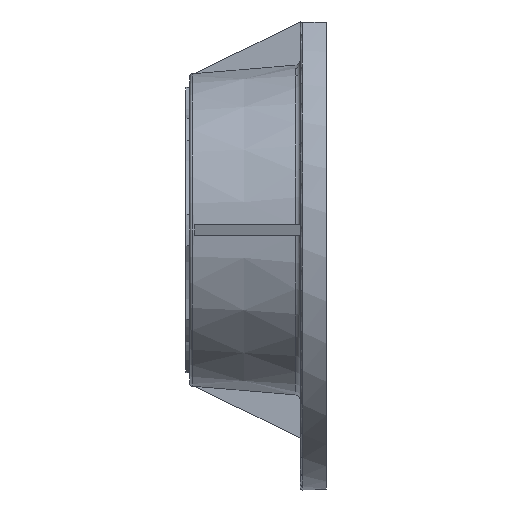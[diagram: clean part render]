
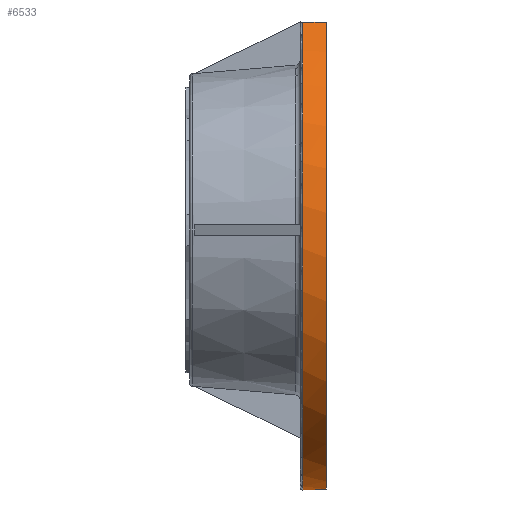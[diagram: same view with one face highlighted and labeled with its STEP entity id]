
A CAD part, front view. The second image highlights one B-rep face of the part: STEP entity #6533.
In plain terms, the highlighted cylindrical face has radius 100 mm (diameter 200 mm), a partial arc.
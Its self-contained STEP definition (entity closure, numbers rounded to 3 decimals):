
#1954 = EDGE_LOOP ( 'NONE', ( #6405, #8250, #18564, #21212, #10952 ) ) ;
#2478 = EDGE_CURVE ( 'NONE', #12086, #9725, #17512, .T. ) ;
#3520 = DIRECTION ( 'NONE',  ( 0., 0., -1. ) ) ;
#4543 = CYLINDRICAL_SURFACE ( 'NONE', #12352, 100. ) ;
#5209 = CARTESIAN_POINT ( 'NONE',  ( 54., 60., 80. ) ) ;
#6405 = ORIENTED_EDGE ( 'NONE', *, *, #15170, .T. ) ;
#6533 = ADVANCED_FACE ( 'NONE', ( #9765 ), #4543, .T. ) ;
#7222 = DIRECTION ( 'NONE',  ( 1., 0., 0. ) ) ;
#7757 = CIRCLE ( 'NONE', #13251, 100. ) ;
#7775 = CARTESIAN_POINT ( 'NONE',  ( 45., 60., 80. ) ) ;
#8250 = ORIENTED_EDGE ( 'NONE', *, *, #2478, .T. ) ;
#8629 = DIRECTION ( 'NONE',  ( 0., 0., 1. ) ) ;
#9702 = VECTOR ( 'NONE', #18089, 1000. ) ;
#9725 = VERTEX_POINT ( 'NONE', #13066 ) ;
#9765 = FACE_OUTER_BOUND ( 'NONE', #1954, .T. ) ;
#10588 = VERTEX_POINT ( 'NONE', #5209 ) ;
#10727 = LINE ( 'NONE', #14672, #9702 ) ;
#10764 = CARTESIAN_POINT ( 'NONE',  ( 54., -60., 80. ) ) ;
#10952 = ORIENTED_EDGE ( 'NONE', *, *, #10958, .T. ) ;
#10958 = EDGE_CURVE ( 'NONE', #10588, #11443, #18197, .T. ) ;
#11177 = AXIS2_PLACEMENT_3D ( 'NONE', #20868, #19360, #17942 ) ;
#11443 = VERTEX_POINT ( 'NONE', #10764 ) ;
#12086 = VERTEX_POINT ( 'NONE', #17738 ) ;
#12352 = AXIS2_PLACEMENT_3D ( 'NONE', #13616, #20042, #8629 ) ;
#13066 = CARTESIAN_POINT ( 'NONE',  ( 45., 0., -100. ) ) ;
#13251 = AXIS2_PLACEMENT_3D ( 'NONE', #18821, #7222, #13761 ) ;
#13307 = DIRECTION ( 'NONE',  ( -1., 0., 0. ) ) ;
#13418 = CARTESIAN_POINT ( 'NONE',  ( 45., 0., 0. ) ) ;
#13553 = DIRECTION ( 'NONE',  ( 1., 0., 0. ) ) ;
#13616 = CARTESIAN_POINT ( 'NONE',  ( -7.555, 0., 0. ) ) ;
#13761 = DIRECTION ( 'NONE',  ( 0., 0., -1. ) ) ;
#14182 = EDGE_CURVE ( 'NONE', #10588, #16529, #21407, .T. ) ;
#14672 = CARTESIAN_POINT ( 'NONE',  ( 54.001, -60., 80. ) ) ;
#15170 = EDGE_CURVE ( 'NONE', #11443, #12086, #10727, .T. ) ;
#16258 = VECTOR ( 'NONE', #13307, 1000. ) ;
#16529 = VERTEX_POINT ( 'NONE', #7775 ) ;
#17512 = CIRCLE ( 'NONE', #19087, 100. ) ;
#17738 = CARTESIAN_POINT ( 'NONE',  ( 45., -60., 80. ) ) ;
#17942 = DIRECTION ( 'NONE',  ( 0., 0., 1. ) ) ;
#18089 = DIRECTION ( 'NONE',  ( -1., 0., 0. ) ) ;
#18197 = CIRCLE ( 'NONE', #11177, 100. ) ;
#18249 = CARTESIAN_POINT ( 'NONE',  ( 54.001, 60., 80. ) ) ;
#18564 = ORIENTED_EDGE ( 'NONE', *, *, #20675, .T. ) ;
#18821 = CARTESIAN_POINT ( 'NONE',  ( 45., 0., 0. ) ) ;
#19087 = AXIS2_PLACEMENT_3D ( 'NONE', #13418, #13553, #3520 ) ;
#19360 = DIRECTION ( 'NONE',  ( -1., 0., 0. ) ) ;
#20042 = DIRECTION ( 'NONE',  ( -1., 0., 0. ) ) ;
#20675 = EDGE_CURVE ( 'NONE', #9725, #16529, #7757, .T. ) ;
#20868 = CARTESIAN_POINT ( 'NONE',  ( 54., 0., 0. ) ) ;
#21212 = ORIENTED_EDGE ( 'NONE', *, *, #14182, .F. ) ;
#21407 = LINE ( 'NONE', #18249, #16258 ) ;
